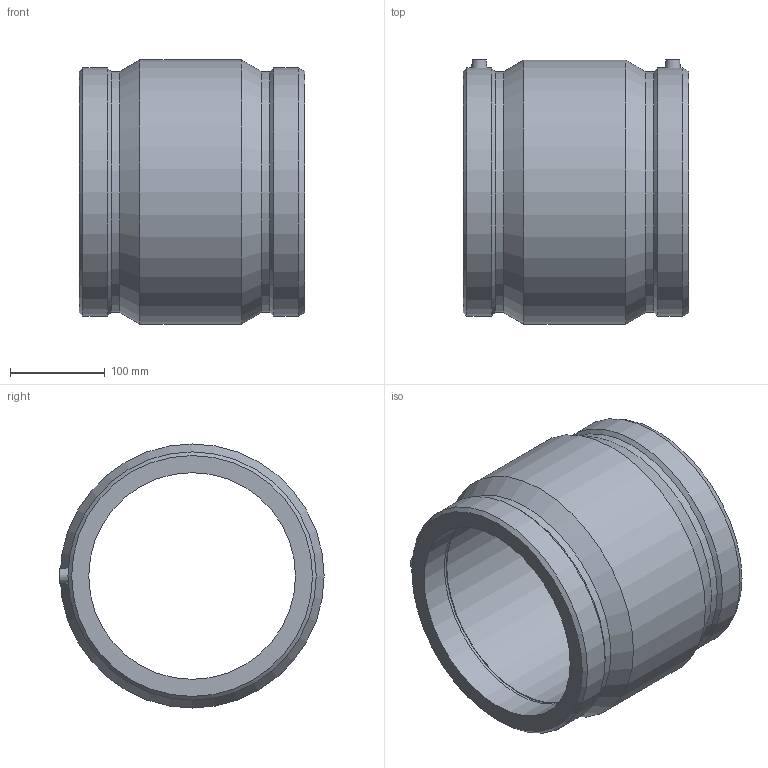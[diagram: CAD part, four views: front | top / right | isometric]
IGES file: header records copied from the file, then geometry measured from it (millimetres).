
Global section: file name: (_AS)5901B004080.ipt; native system: Autodesk Inventor 2019; preprocessor: unknown; author: KIM; date: 20210830.100842; units: inch
Bounding box: 239.01 x 279.65 x 279.4 mm (x, y, z)
Volume: 4733325 mm3; surface area: 407309.7 mm2
Topology: 1 solids, 1 shells, 32 faces, 70 edges, 46 vertices
Faces by surface type: plane 10, cone 8, cylinder 7, revolution 7
Full cylindrical faces by diameter (mm): 4 x2, 254.757 x2, 262.636 x2, 279.4 x1
